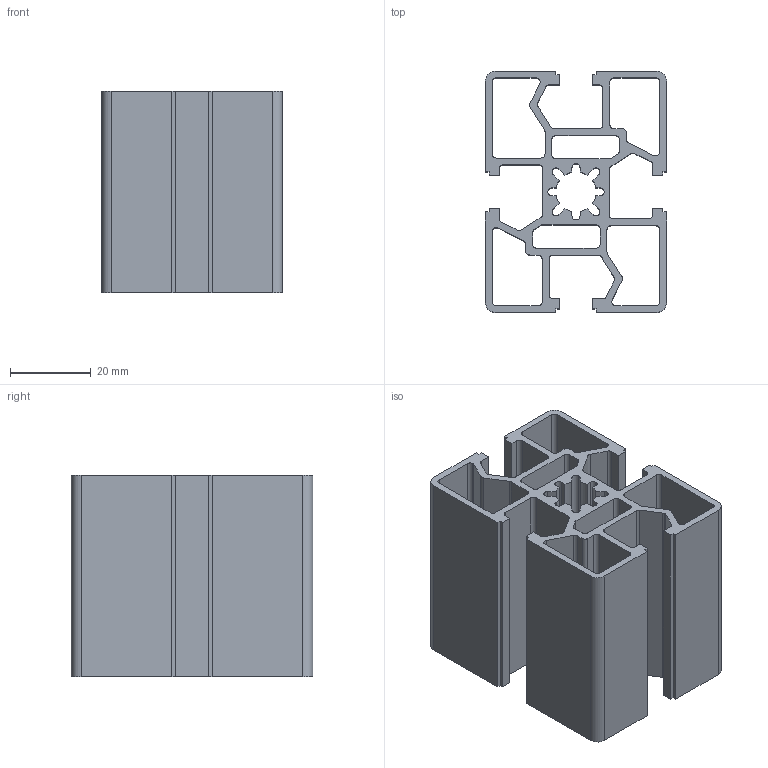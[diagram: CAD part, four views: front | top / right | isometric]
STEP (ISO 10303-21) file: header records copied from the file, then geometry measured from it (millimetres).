
FILE_DESCRIPTION (( 'STEP AP203' ), '1' );
FILE_NAME ('45X60.STEP', '2018-04-06T08:37:34', ( '' ), ( '' ), 'SwSTEP 2.0', 'SolidWorks 2014', '' );
FILE_SCHEMA (( 'CONFIG_CONTROL_DESIGN' ));
Length unit declared in the file: millimetre
Products named in the file (1): 45X60
Bounding box: 45 x 60 x 50 mm (x, y, z)
Volume: 38201.6 mm3; surface area: 39595.8 mm2
Topology: 1 solids, 1 shells, 188 faces, 558 edges, 372 vertices
Faces by surface type: plane 108, cylinder 80
Entity records: 6427 total; most frequent: CARTESIAN_POINT 1119, ORIENTED_EDGE 1116, DIRECTION 1096, EDGE_CURVE 558, LINE 398, VECTOR 398, VERTEX_POINT 372, AXIS2_PLACEMENT_3D 349
